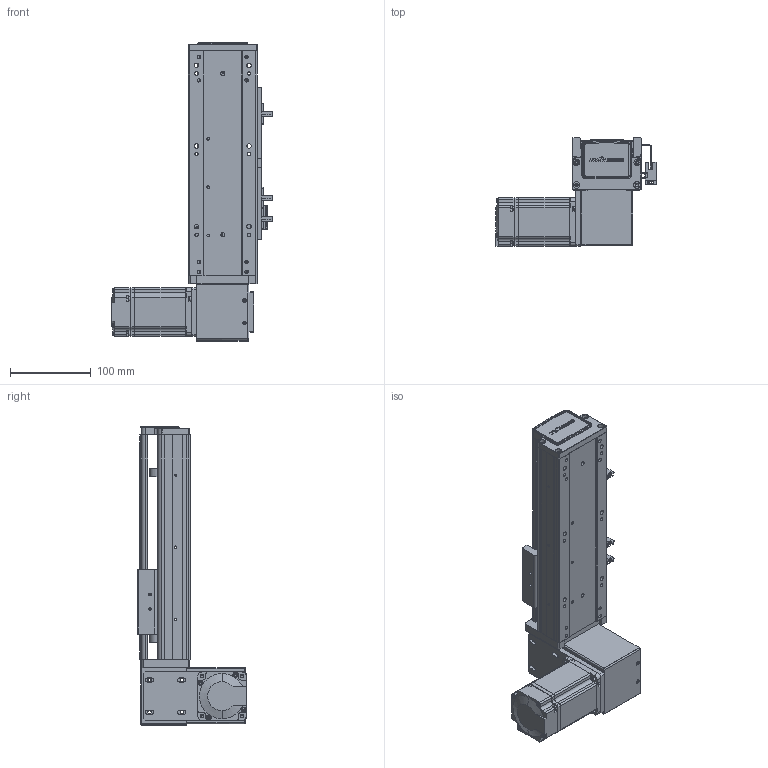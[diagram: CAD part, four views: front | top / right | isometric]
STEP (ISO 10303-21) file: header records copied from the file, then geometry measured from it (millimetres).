
FILE_DESCRIPTION (( 'STEP AP203' ), '1' );
FILE_NAME ('RY80-T-300-DL.SLDASM_100.step', '2021-03-01T01:37:22', ( '盈信电脑' ), ( '东莞市道滘镇水果街19号' ), 'SwSTEP 2.0', 'SolidWorks 2012', '' );
FILE_SCHEMA (( 'CONFIG_CONTROL_DESIGN' ));
Length unit declared in the file: millimetre
Products named in the file (19): RY80-T-上下折同步轮盖板; RY80-T-300-DL.SLDASM_100; RY100-T粣創揤踡裔; RY80-T肮祭謫狟殏俋欶; 1; 滅袉蝶18-10; RY80-T-M4蹟翐3; RY80-T翋肮祭謫裔啣; RY80-T萇儂假蚾啣; RY80-T肮祭湍揤輸2; RY80-T肮祭湍揤輸1; 672嫖萇羲壽假蚾釱; RY80-T-翋肮祭謫釱; 覜茼ん672; RY80俋离覜茼え; RY80-T綴裔啣; RY80-T肮祭謫臏賑輸; RY80-T-300-DL倰第奻裔啣_100; RY80-T-300-DL倰第菁釱_100
Assembly tree (24 placements, depth 2):
  RY80-T-300-DL.SLDASM_100
    RY80-T-300-DL倰第菁釱_100
    RY80-T肮祭謫臏賑輸
    RY80-T-300-DL倰第奻裔啣_100
    RY80-T綴裔啣
    672嫖萇羲壽假蚾釱  x2
    覜茼ん672  x3
    RY80俋离覜茼え
    RY80-T-翋肮祭謫釱
    RY80-T肮祭湍揤輸1
    RY80-T肮祭湍揤輸2
    RY80-T萇儂假蚾啣
    RY80-T翋肮祭謫裔啣  x2
    滅袉蝶18-10  x2
    1
    RY80-T肮祭謫狟殏俋欶
    RY80-T-M4蹟翐3  x2
    RY80-T-上下折同步轮盖板
    RY100-T粣創揤踡裔
Bounding box: 198.7 x 134.5 x 370 mm (x, y, z)
Volume: 1022629.2 mm3; surface area: 398399 mm2
Topology: 24 solids, 24 shells, 2319 faces, 6337 edges, 4111 vertices
Faces by surface type: plane 1311, cylinder 808, cone 144, bspline 56
Entity records: 70759 total; most frequent: CARTESIAN_POINT 16022, ORIENTED_EDGE 11118, DIRECTION 10632, EDGE_CURVE 5559, VERTEX_POINT 3652, LINE 3604, VECTOR 3604, AXIS2_PLACEMENT_3D 3514
